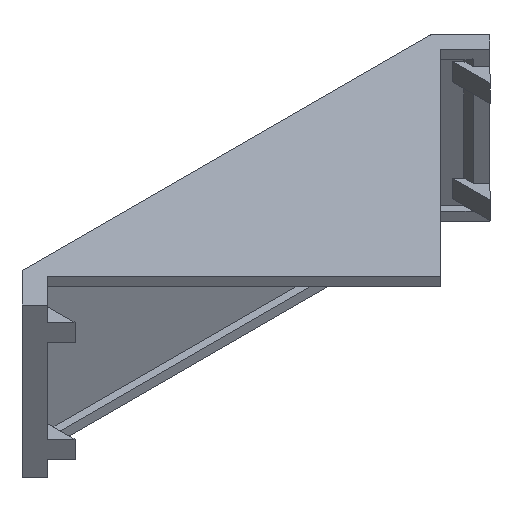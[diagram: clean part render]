
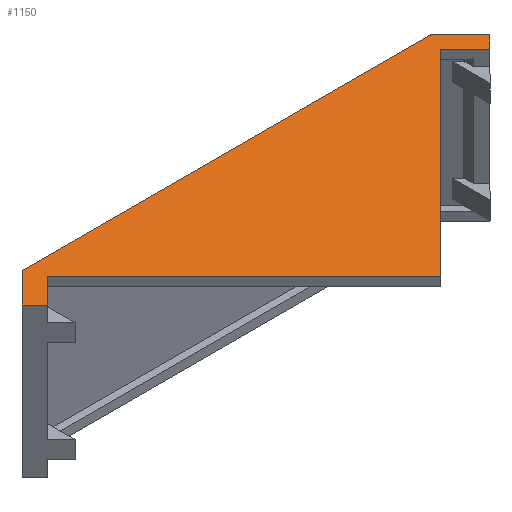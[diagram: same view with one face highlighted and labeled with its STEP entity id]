
A CAD part, isometric view. The second image highlights one B-rep face of the part: STEP entity #1150.
In plain terms, the highlighted planar face has unit normal (0, 0, 1).
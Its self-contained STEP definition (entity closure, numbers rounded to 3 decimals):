
#37 = ORIENTED_EDGE ( 'NONE', *, *, #473, .T. ) ;
#42 = VECTOR ( 'NONE', #1200, 1000. ) ;
#53 = LINE ( 'NONE', #468, #42 ) ;
#93 = CARTESIAN_POINT ( 'NONE',  ( 24.816, -30.581, 42. ) ) ;
#124 = CARTESIAN_POINT ( 'NONE',  ( 24.816, -30.581, 42. ) ) ;
#131 = CARTESIAN_POINT ( 'NONE',  ( -41.098, 21.433, 42. ) ) ;
#137 = ORIENTED_EDGE ( 'NONE', *, *, #831, .T. ) ;
#142 = AXIS2_PLACEMENT_3D ( 'NONE', #178, #1014, #380 ) ;
#148 = LINE ( 'NONE', #1104, #175 ) ;
#175 = VECTOR ( 'NONE', #1206, 1000. ) ;
#178 = CARTESIAN_POINT ( 'NONE',  ( 0., 0., 42. ) ) ;
#179 = EDGE_LOOP ( 'NONE', ( #37, #1185, #767, #1260, #137, #886, #1252, #411, #1313 ) ) ;
#314 = DIRECTION ( 'NONE',  ( -0.707, -0.707, 0. ) ) ;
#331 = LINE ( 'NONE', #418, #343 ) ;
#343 = VECTOR ( 'NONE', #522, 1000. ) ;
#380 = DIRECTION ( 'NONE',  ( 1., 0., 0. ) ) ;
#402 = VECTOR ( 'NONE', #856, 1000. ) ;
#403 = EDGE_CURVE ( 'NONE', #544, #594, #53, .T. ) ;
#405 = CARTESIAN_POINT ( 'NONE',  ( 87.266, 17.827, 42. ) ) ;
#411 = ORIENTED_EDGE ( 'NONE', *, *, #433, .T. ) ;
#417 = LINE ( 'NONE', #1237, #422 ) ;
#418 = CARTESIAN_POINT ( 'NONE',  ( -32.684, 29.848, 42. ) ) ;
#422 = VECTOR ( 'NONE', #314, 1000. ) ;
#433 = EDGE_CURVE ( 'NONE', #678, #780, #1159, .T. ) ;
#439 = VERTEX_POINT ( 'NONE', #498 ) ;
#440 = LINE ( 'NONE', #131, #402 ) ;
#468 = CARTESIAN_POINT ( 'NONE',  ( 90.731, 21.433, 42. ) ) ;
#473 = EDGE_CURVE ( 'NONE', #731, #594, #1228, .T. ) ;
#498 = CARTESIAN_POINT ( 'NONE',  ( -37.563, 17.898, 42. ) ) ;
#515 = LINE ( 'NONE', #1175, #535 ) ;
#522 = DIRECTION ( 'NONE',  ( -1., 0., 0. ) ) ;
#535 = VECTOR ( 'NONE', #1269, 1000. ) ;
#544 = VERTEX_POINT ( 'NONE', #1199 ) ;
#582 = PLANE ( 'NONE',  #142 ) ;
#588 = VERTEX_POINT ( 'NONE', #1130 ) ;
#594 = VERTEX_POINT ( 'NONE', #623 ) ;
#623 = CARTESIAN_POINT ( 'NONE',  ( 87.195, 17.898, 42. ) ) ;
#655 = LINE ( 'NONE', #693, #662 ) ;
#662 = VECTOR ( 'NONE', #1198, 1000. ) ;
#668 = EDGE_CURVE ( 'NONE', #544, #836, #148, .T. ) ;
#678 = VERTEX_POINT ( 'NONE', #708 ) ;
#693 = CARTESIAN_POINT ( 'NONE',  ( -37.633, 17.827, 42. ) ) ;
#708 = CARTESIAN_POINT ( 'NONE',  ( -30.613, 24.848, 42. ) ) ;
#722 = DIRECTION ( 'NONE',  ( 0.707, -0.707, 0. ) ) ;
#728 = VERTEX_POINT ( 'NONE', #936 ) ;
#731 = VERTEX_POINT ( 'NONE', #1030 ) ;
#760 = EDGE_CURVE ( 'NONE', #836, #588, #331, .T. ) ;
#767 = ORIENTED_EDGE ( 'NONE', *, *, #668, .T. ) ;
#778 = VECTOR ( 'NONE', #722, 1000. ) ;
#780 = VERTEX_POINT ( 'NONE', #124 ) ;
#831 = EDGE_CURVE ( 'NONE', #588, #728, #417, .T. ) ;
#836 = VERTEX_POINT ( 'NONE', #847 ) ;
#841 = EDGE_CURVE ( 'NONE', #728, #439, #440, .T. ) ;
#847 = CARTESIAN_POINT ( 'NONE',  ( 82.316, 29.848, 42. ) ) ;
#856 = DIRECTION ( 'NONE',  ( 0.707, -0.707, 0. ) ) ;
#886 = ORIENTED_EDGE ( 'NONE', *, *, #841, .T. ) ;
#895 = FACE_OUTER_BOUND ( 'NONE', #179, .T. ) ;
#901 = EDGE_CURVE ( 'NONE', #780, #731, #515, .T. ) ;
#936 = CARTESIAN_POINT ( 'NONE',  ( -41.098, 21.433, 42. ) ) ;
#994 = EDGE_CURVE ( 'NONE', #439, #678, #655, .T. ) ;
#1014 = DIRECTION ( 'NONE',  ( 0., 0., 1. ) ) ;
#1030 = CARTESIAN_POINT ( 'NONE',  ( 80.245, 24.848, 42. ) ) ;
#1104 = CARTESIAN_POINT ( 'NONE',  ( 82.316, 29.848, 42. ) ) ;
#1119 = VECTOR ( 'NONE', #1211, 1000. ) ;
#1130 = CARTESIAN_POINT ( 'NONE',  ( -32.684, 29.848, 42. ) ) ;
#1150 = ADVANCED_FACE ( 'NONE', ( #895 ), #582, .T. ) ;
#1159 = LINE ( 'NONE', #93, #1119 ) ;
#1175 = CARTESIAN_POINT ( 'NONE',  ( 80.245, 24.848, 42. ) ) ;
#1185 = ORIENTED_EDGE ( 'NONE', *, *, #403, .F. ) ;
#1198 = DIRECTION ( 'NONE',  ( 0.707, 0.707, 0. ) ) ;
#1199 = CARTESIAN_POINT ( 'NONE',  ( 90.731, 21.433, 42. ) ) ;
#1200 = DIRECTION ( 'NONE',  ( -0.707, -0.707, 0. ) ) ;
#1206 = DIRECTION ( 'NONE',  ( -0.707, 0.707, 0. ) ) ;
#1211 = DIRECTION ( 'NONE',  ( 0.707, -0.707, 0. ) ) ;
#1228 = LINE ( 'NONE', #405, #778 ) ;
#1237 = CARTESIAN_POINT ( 'NONE',  ( -32.684, 29.848, 42. ) ) ;
#1252 = ORIENTED_EDGE ( 'NONE', *, *, #994, .T. ) ;
#1260 = ORIENTED_EDGE ( 'NONE', *, *, #760, .T. ) ;
#1269 = DIRECTION ( 'NONE',  ( 0.707, 0.707, 0. ) ) ;
#1313 = ORIENTED_EDGE ( 'NONE', *, *, #901, .T. ) ;
